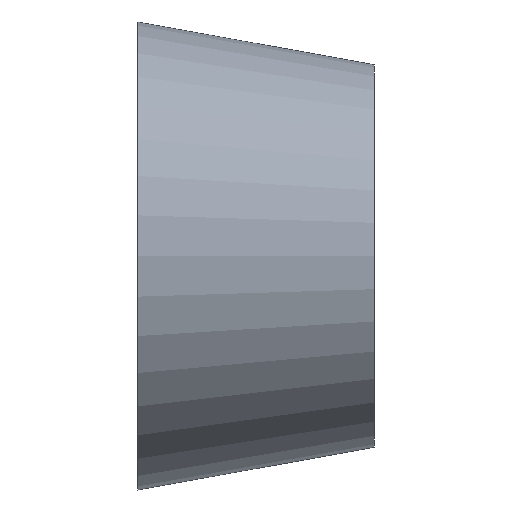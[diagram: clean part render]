
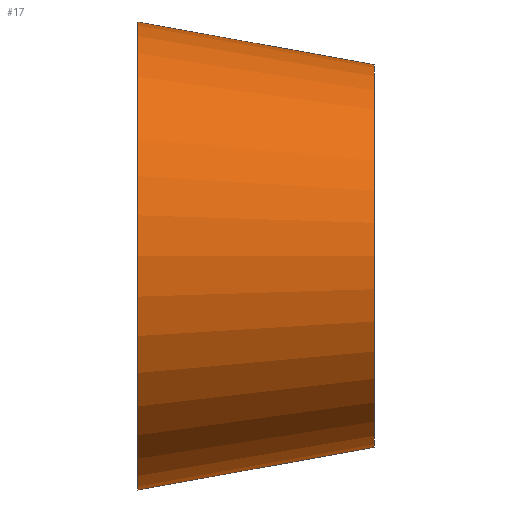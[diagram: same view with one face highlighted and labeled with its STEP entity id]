
A CAD part, front view. The second image highlights one B-rep face of the part: STEP entity #17.
In plain terms, the highlighted free-form (B-spline) face has degree [11, 1] with [22, 2] control points.
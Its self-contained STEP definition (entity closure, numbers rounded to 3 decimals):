
#17 = ADVANCED_FACE('',(#18),#31,.T.);
#18 = FACE_BOUND('',#19,.T.);
#19 = EDGE_LOOP('',(#20,#94,#116,#143));
#20 = ORIENTED_EDGE('',*,*,#21,.T.);
#21 = EDGE_CURVE('',#22,#22,#24,.T.);
#22 = VERTEX_POINT('',#23);
#23 = CARTESIAN_POINT('',(0.,52.,0.));
#24 = SURFACE_CURVE('',#25,(#30,#82),.PCURVE_S1.);
#25 = CIRCLE('',#26,52.);
#26 = AXIS2_PLACEMENT_3D('',#27,#28,#29);
#27 = CARTESIAN_POINT('',(0.,0.,0.));
#28 = DIRECTION('',(1.,0.,0.));
#29 = DIRECTION('',(0.,1.,0.));
#30 = PCURVE('',#31,#76);
#31 = B_SPLINE_SURFACE_WITH_KNOTS('',11,1,(
    (#32,#33)
    ,(#34,#35)
    ,(#36,#37)
    ,(#38,#39)
    ,(#40,#41)
    ,(#42,#43)
    ,(#44,#45)
    ,(#46,#47)
    ,(#48,#49)
    ,(#50,#51)
    ,(#52,#53)
    ,(#54,#55)
    ,(#56,#57)
    ,(#58,#59)
    ,(#60,#61)
    ,(#62,#63)
    ,(#64,#65)
    ,(#66,#67)
    ,(#68,#69)
    ,(#70,#71)
    ,(#72,#73)
    ,(#74,#75
    )),.UNSPECIFIED.,.T.,.F.,.F.,(12,10,12),(2,2),(0.,3.142,
    6.283),(0.,1.),.UNSPECIFIED.);
#32 = CARTESIAN_POINT('',(0.,52.,0.));
#33 = CARTESIAN_POINT('',(52.5,33.,0.));
#34 = CARTESIAN_POINT('',(0.,52.,14.851));
#35 = CARTESIAN_POINT('',(52.5,33.,12.138));
#36 = CARTESIAN_POINT('',(0.,47.334,29.702));
#37 = CARTESIAN_POINT('',(52.5,29.187,24.276
    ));
#38 = CARTESIAN_POINT('',(0.,38.003,42.925));
#39 = CARTESIAN_POINT('',(52.5,21.56,35.083
    ));
#40 = CARTESIAN_POINT('',(0.,24.646,52.89));
#41 = CARTESIAN_POINT('',(52.5,10.643,
    43.228));
#42 = CARTESIAN_POINT('',(0.,8.541,58.257));
#43 = CARTESIAN_POINT('',(52.5,-2.519,
    47.614));
#44 = CARTESIAN_POINT('',(0.,-8.541,58.257));
#45 = CARTESIAN_POINT('',(52.5,-16.481,47.614
    ));
#46 = CARTESIAN_POINT('',(0.,-24.646,52.89));
#47 = CARTESIAN_POINT('',(52.5,-29.643,
    43.228));
#48 = CARTESIAN_POINT('',(0.,-38.003,42.925));
#49 = CARTESIAN_POINT('',(52.5,-40.56,35.083)
  );
#50 = CARTESIAN_POINT('',(0.,-47.334,29.702));
#51 = CARTESIAN_POINT('',(52.5,-48.187,
    24.276));
#52 = CARTESIAN_POINT('',(0.,-52.,14.851));
#53 = CARTESIAN_POINT('',(52.5,-52.,12.138));
#54 = CARTESIAN_POINT('',(0.,-52.,-14.851));
#55 = CARTESIAN_POINT('',(52.5,-52.,-12.138));
#56 = CARTESIAN_POINT('',(0.,-47.334,-29.702));
#57 = CARTESIAN_POINT('',(52.5,-48.187,
    -24.276));
#58 = CARTESIAN_POINT('',(0.,-38.003,-42.925));
#59 = CARTESIAN_POINT('',(52.5,-40.56,-35.083));
#60 = CARTESIAN_POINT('',(0.,-24.646,-52.89));
#61 = CARTESIAN_POINT('',(52.5,-29.643,-43.228
    ));
#62 = CARTESIAN_POINT('',(0.,-8.541,-58.257));
#63 = CARTESIAN_POINT('',(52.5,-16.481,-47.614
    ));
#64 = CARTESIAN_POINT('',(0.,8.541,-58.257));
#65 = CARTESIAN_POINT('',(52.5,-2.519,
    -47.614));
#66 = CARTESIAN_POINT('',(0.,24.646,-52.89));
#67 = CARTESIAN_POINT('',(52.5,10.643,
    -43.228));
#68 = CARTESIAN_POINT('',(0.,38.003,-42.925));
#69 = CARTESIAN_POINT('',(52.5,21.56,
    -35.083));
#70 = CARTESIAN_POINT('',(0.,47.334,-29.702));
#71 = CARTESIAN_POINT('',(52.5,29.187,-24.276
    ));
#72 = CARTESIAN_POINT('',(0.,52.,-14.851));
#73 = CARTESIAN_POINT('',(52.5,33.,
    -12.138));
#74 = CARTESIAN_POINT('',(0.,52.,0.));
#75 = CARTESIAN_POINT('',(52.5,33.,0.));
#76 = DEFINITIONAL_REPRESENTATION('',(#77),#81);
#77 = LINE('',#78,#79);
#78 = CARTESIAN_POINT('',(0.,0.));
#79 = VECTOR('',#80,1.);
#80 = DIRECTION('',(1.,0.));
#81 = ( GEOMETRIC_REPRESENTATION_CONTEXT(2) 
PARAMETRIC_REPRESENTATION_CONTEXT() REPRESENTATION_CONTEXT('2D SPACE',''
  ) );
#82 = PCURVE('',#83,#88);
#83 = PLANE('',#84);
#84 = AXIS2_PLACEMENT_3D('',#85,#86,#87);
#85 = CARTESIAN_POINT('',(0.,0.,0.));
#86 = DIRECTION('',(1.,0.,0.));
#87 = DIRECTION('',(0.,1.,0.));
#88 = DEFINITIONAL_REPRESENTATION('',(#89),#93);
#89 = CIRCLE('',#90,52.);
#90 = AXIS2_PLACEMENT_2D('',#91,#92);
#91 = CARTESIAN_POINT('',(0.,0.));
#92 = DIRECTION('',(1.,0.));
#93 = ( GEOMETRIC_REPRESENTATION_CONTEXT(2) 
PARAMETRIC_REPRESENTATION_CONTEXT() REPRESENTATION_CONTEXT('2D SPACE',''
  ) );
#94 = ORIENTED_EDGE('',*,*,#95,.T.);
#95 = EDGE_CURVE('',#22,#96,#98,.T.);
#96 = VERTEX_POINT('',#97);
#97 = CARTESIAN_POINT('',(52.5,33.,0.));
#98 = SEAM_CURVE('',#99,(#102,#109),.PCURVE_S1.);
#99 = B_SPLINE_CURVE_WITH_KNOTS('',1,(#100,#101),.UNSPECIFIED.,.F.,.F.,(
    2,2),(0.,1.),.PIECEWISE_BEZIER_KNOTS.);
#100 = CARTESIAN_POINT('',(0.,52.,0.));
#101 = CARTESIAN_POINT('',(52.5,33.,0.));
#102 = PCURVE('',#31,#103);
#103 = DEFINITIONAL_REPRESENTATION('',(#104),#108);
#104 = LINE('',#105,#106);
#105 = CARTESIAN_POINT('',(6.283,0.));
#106 = VECTOR('',#107,1.);
#107 = DIRECTION('',(0.,1.));
#108 = ( GEOMETRIC_REPRESENTATION_CONTEXT(2) 
PARAMETRIC_REPRESENTATION_CONTEXT() REPRESENTATION_CONTEXT('2D SPACE',''
  ) );
#109 = PCURVE('',#31,#110);
#110 = DEFINITIONAL_REPRESENTATION('',(#111),#115);
#111 = LINE('',#112,#113);
#112 = CARTESIAN_POINT('',(0.,0.));
#113 = VECTOR('',#114,1.);
#114 = DIRECTION('',(0.,1.));
#115 = ( GEOMETRIC_REPRESENTATION_CONTEXT(2) 
PARAMETRIC_REPRESENTATION_CONTEXT() REPRESENTATION_CONTEXT('2D SPACE',''
  ) );
#116 = ORIENTED_EDGE('',*,*,#117,.F.);
#117 = EDGE_CURVE('',#96,#96,#118,.T.);
#118 = SURFACE_CURVE('',#119,(#124,#131),.PCURVE_S1.);
#119 = CIRCLE('',#120,42.5);
#120 = AXIS2_PLACEMENT_3D('',#121,#122,#123);
#121 = CARTESIAN_POINT('',(52.5,-9.5,0.));
#122 = DIRECTION('',(1.,0.,0.));
#123 = DIRECTION('',(0.,1.,0.));
#124 = PCURVE('',#31,#125);
#125 = DEFINITIONAL_REPRESENTATION('',(#126),#130);
#126 = LINE('',#127,#128);
#127 = CARTESIAN_POINT('',(0.,1.));
#128 = VECTOR('',#129,1.);
#129 = DIRECTION('',(1.,0.));
#130 = ( GEOMETRIC_REPRESENTATION_CONTEXT(2) 
PARAMETRIC_REPRESENTATION_CONTEXT() REPRESENTATION_CONTEXT('2D SPACE',''
  ) );
#131 = PCURVE('',#132,#137);
#132 = PLANE('',#133);
#133 = AXIS2_PLACEMENT_3D('',#134,#135,#136);
#134 = CARTESIAN_POINT('',(52.5,-9.5,0.));
#135 = DIRECTION('',(1.,0.,0.));
#136 = DIRECTION('',(0.,1.,0.));
#137 = DEFINITIONAL_REPRESENTATION('',(#138),#142);
#138 = CIRCLE('',#139,42.5);
#139 = AXIS2_PLACEMENT_2D('',#140,#141);
#140 = CARTESIAN_POINT('',(0.,0.));
#141 = DIRECTION('',(1.,0.));
#142 = ( GEOMETRIC_REPRESENTATION_CONTEXT(2) 
PARAMETRIC_REPRESENTATION_CONTEXT() REPRESENTATION_CONTEXT('2D SPACE',''
  ) );
#143 = ORIENTED_EDGE('',*,*,#95,.F.);
